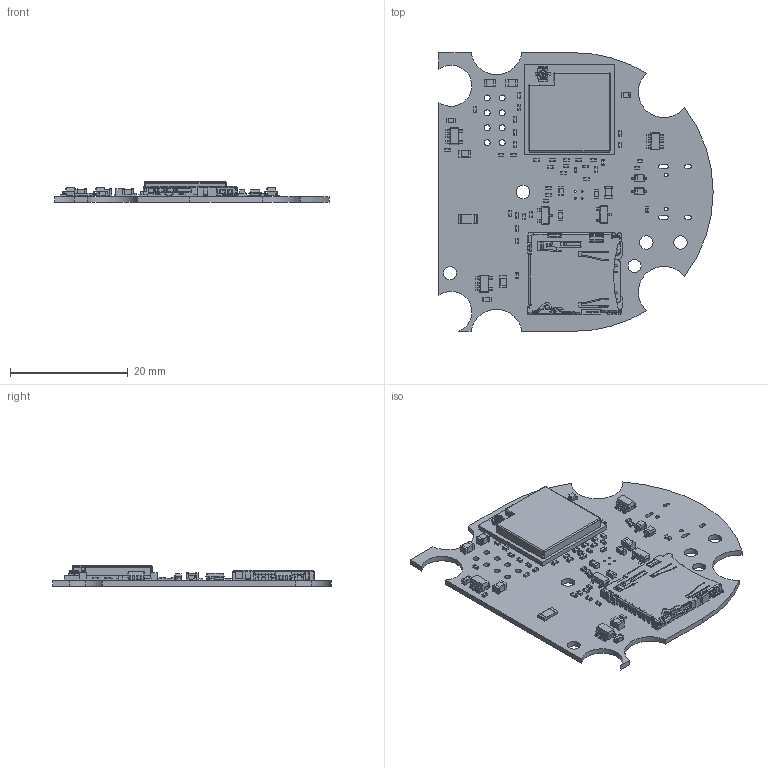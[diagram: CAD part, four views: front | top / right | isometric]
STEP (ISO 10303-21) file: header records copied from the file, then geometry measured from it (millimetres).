
FILE_DESCRIPTION(('KiCad electronic assembly'),'2;1');
FILE_NAME('AVO_BACK_V4_PCB_FINAL_STEP.step','2026-10-30T11:48:22',( 'Pcbnew'),('Kicad'),'Open CASCADE STEP processor 7.6', 'KiCad to STEP converter','Unknown');
FILE_SCHEMA(('AUTOMOTIVE_DESIGN { 1 0 10303 214 1 1 1 1 }'));
Length unit declared in the file: millimetre
Products named in the file (42): AVO_BACK_V4_PCB_FINAL_STEP 1; LED_0603_1608Metric; C_0402_1005Metric; C_0603_1608Metric; R_0402_1005Metric; SOT-23-5; SOT-23; microSD_HC_Hirose_DM3AT-SF-PEJM5; C_0805_2012Metric; D_SOD-323; Fuse_1206_3216Metric; SOT-23-6; ESP32-S3-MINI-1U; DesignRootModel; uid__2482; Submodel-R0201_part_R0201; Submodel-D__3D_design_ESP32-S3_module_module_ESP32-S3-MINI-1U-3D_PCB_
ESP32-S3-MINI-1U_V1.1_20210824_PCB_3D_ImportedPartModels_R0201_
20210301.STEP; R0201_20210301.xtd; Submodel-L0201_part_L0201; Submodel-D__3D_design_ESP32-S3_module_module_ESP32-S3-MINI-1U-3D_PCB_
ESP32-S3-MINI-1U_V1.1_20210824_PCB_3D_ImportedPartModels_L0201_
20210301.STEP; L0201_20210301.xtd; Submodel-C0201_part_C0201; Submodel-D__3D_design_ESP32-S3_module_module_ESP32-S3-MINI-1U-3D_PCB_
ESP32-S3-MINI-1U_V1.1_20210824_PCB_3D_ImportedPartModels_C0201_
20210301.STEP; C0201_20210301.xtd; Submodel-C0402_part_C0402; Submodel-D__3D_design_ESP32-S3_module_module_ESP32-S3-MINI-1U-3D_PCB_
ESP32-S3-MINI-1U_V1.1_20210824_PCB_3D_ImportedPartModels_C0402_
20210301.STEP; C0402_20210301.xtd; Submodel-SOD882_part_SOD882; Submodel-D__3D_design_ESP32-S3_module_module_ESP32-S3-MINI-1U-3D_PCB_
ESP32-S3-MINI-1U_V1.1_20210824_PCB_3D_ImportedPartModels_DFN1006.STEP; DFN1006.xtd; Submodel-XTAL3225_part_XTAL3225; Submodel-D__3D_design_ESP32-S3_module_module_ESP32-S3-MINI-1U-3D_PCB_
ESP32-S3-MINI-1U_V1.1_20210824_PCB_3D_ImportedPartModels_XTAL3225_
20210301.STEP; XTAL3225_20210301.xtd; Submodel-IPEX_4P_part_IPEX_4P; Submodel-D__3D_design_ESP32-S3_module_module_ESP32-S3-MINI-1U-3D_PCB_
ESP32-S3-MINI-1U_V1.1_20210824_PCB_3D_ImportedPartModels_ipx3.STEP; ipx3.xtd; Submodel-QFN56_0P4_7_part_QFN56_0P4_7; Submodel-D__3D_design_ESP32-S3_module_module_ESP32-S3-MINI-1U-3D_PCB_
ESP32-S3-MINI-1U_V1.1_20210824_PCB_3D_ImportedPartModels_ESP32-S3_
20210301.STEP; ESP32-S3_20210301.xtd; Imported ...
Assembly tree (102 placements, depth 6):
  AVO_BACK_V4_PCB_FINAL_STEP 1
    LED_0603_1608Metric
    C_0402_1005Metric  x7
    C_0603_1608Metric  x5
    R_0402_1005Metric  x30
    SOT-23-5  x2
    SOT-23  x2
    microSD_HC_Hirose_DM3AT-SF-PEJM5
    C_0805_2012Metric  x5
    D_SOD-323  x2
    Fuse_1206_3216Metric
    SOT-23-6
    ESP32-S3-MINI-1U
      DesignRootModel
        uid__2482
        Submodel-R0201_part_R0201  x3
          Submodel-D__3D_design_ESP32-S3_module_module_ESP32-S3-MINI-1U-3D_PCB_
ESP32-S3-MINI-1U_V1.1_20210824_PCB_3D_ImportedPartModels_R0201_
20210301.STEP
            R0201_20210301.xtd
        Submodel-L0201_part_L0201  x2
          Submodel-D__3D_design_ESP32-S3_module_module_ESP32-S3-MINI-1U-3D_PCB_
ESP32-S3-MINI-1U_V1.1_20210824_PCB_3D_ImportedPartModels_L0201_
20210301.STEP
            L0201_20210301.xtd
        Submodel-C0201_part_C0201  x13
          Submodel-D__3D_design_ESP32-S3_module_module_ESP32-S3-MINI-1U-3D_PCB_
ESP32-S3-MINI-1U_V1.1_20210824_PCB_3D_ImportedPartModels_C0201_
20210301.STEP
            C0201_20210301.xtd
        Submodel-C0402_part_C0402
          Submodel-D__3D_design_ESP32-S3_module_module_ESP32-S3-MINI-1U-3D_PCB_
ESP32-S3-MINI-1U_V1.1_20210824_PCB_3D_ImportedPartModels_C0402_
20210301.STEP
            C0402_20210301.xtd
        Submodel-SOD882_part_SOD882
          Submodel-D__3D_design_ESP32-S3_module_module_ESP32-S3-MINI-1U-3D_PCB_
ESP32-S3-MINI-1U_V1.1_20210824_PCB_3D_ImportedPartModels_DFN1006.STEP
            DFN1006.xtd
        Submodel-XTAL3225_part_XTAL3225
          Submodel-D__3D_design_ESP32-S3_module_module_ESP32-S3-MINI-1U-3D_PCB_
ESP32-S3-MINI-1U_V1.1_20210824_PCB_3D_ImportedPartModels_XTAL3225_
20210301.STEP
            XTAL3225_20210301.xtd
        Submodel-IPEX_4P_part_IPEX_4P
          Submodel-D__3D_design_ESP32-S3_module_module_ESP32-S3-MINI-1U-3D_PCB_
ESP32-S3-MINI-1U_V1.1_20210824_PCB_3D_ImportedPartModels_ipx3.STEP
            ipx3.xtd
        Submodel-QFN56_0P4_7_part_QFN56_0P4_7
          Submodel-D__3D_design_ESP32-S3_module_module_ESP32-S3-MINI-1U-3D_PCB_
ESP32-S3-MINI-1U_V1.1_20210824_PCB_3D_ImportedPartModels_ESP32-S3_
20210301.STEP
            ESP32-S3_20210301.xtd
      Imported
      Shield Box_ESP32-S3-MINI-1U_20200714
    AVO_BACK_V4_PCB_PCB
Bounding box: 46.67 x 47.4 x 3.46 mm (x, y, z)
Volume: 2081.4 mm3; surface area: 6532.1 mm2
Topology: 280 solids, 281 shells, 5772 faces, 14354 edges, 9071 vertices
Faces by surface type: plane 4045, cylinder 1330, bspline 388, cone 9
Full cylindrical faces by diameter (mm): 0.3 x4, 0.65 x2, 1 x8, 2.2 x2, 2.3 x3
Entity records: 113363 total; most frequent: CARTESIAN_POINT 25250, ORIENTED_EDGE 18434, DIRECTION 16790, EDGE_CURVE 9217, LINE 7444, VECTOR 7444, VERTEX_POINT 5915, AXIS2_PLACEMENT_3D 4673
